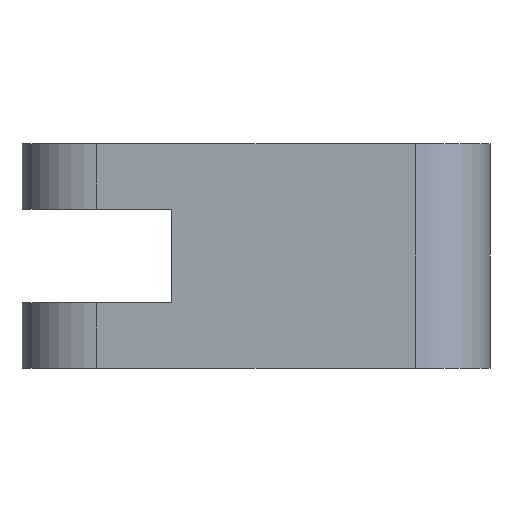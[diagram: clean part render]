
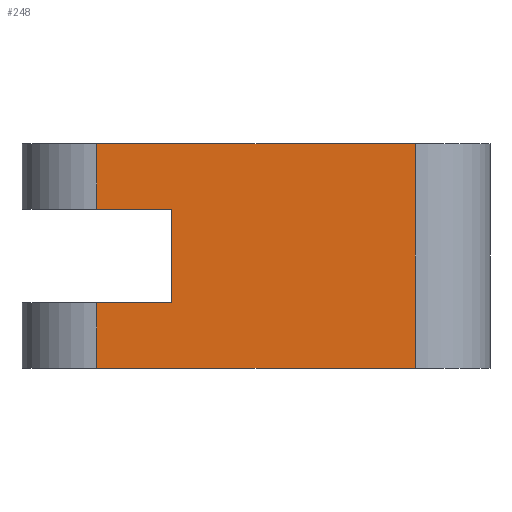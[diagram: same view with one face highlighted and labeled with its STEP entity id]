
A CAD part, front view. The second image highlights one B-rep face of the part: STEP entity #248.
In plain terms, the highlighted planar face has unit normal (0, -1, 0).
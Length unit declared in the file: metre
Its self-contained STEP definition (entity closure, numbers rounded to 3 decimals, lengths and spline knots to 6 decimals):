
#33=ORIENTED_EDGE('',*,*,#97,.T.);
#34=ORIENTED_EDGE('',*,*,#98,.T.);
#35=ORIENTED_EDGE('',*,*,#99,.T.);
#36=ORIENTED_EDGE('',*,*,#100,.F.);
#37=ORIENTED_EDGE('',*,*,#101,.T.);
#38=ORIENTED_EDGE('',*,*,#102,.F.);
#39=ORIENTED_EDGE('',*,*,#103,.F.);
#40=ORIENTED_EDGE('',*,*,#104,.T.);
#97=EDGE_CURVE('',#129,#130,#153,.T.);
#98=EDGE_CURVE('',#130,#131,#154,.T.);
#99=EDGE_CURVE('',#131,#132,#155,.T.);
#100=EDGE_CURVE('',#133,#132,#156,.T.);
#101=EDGE_CURVE('',#133,#134,#157,.T.);
#102=EDGE_CURVE('',#135,#134,#158,.T.);
#103=EDGE_CURVE('',#136,#135,#159,.T.);
#104=EDGE_CURVE('',#136,#129,#160,.T.);
#129=VERTEX_POINT('',#382);
#130=VERTEX_POINT('',#383);
#131=VERTEX_POINT('',#385);
#132=VERTEX_POINT('',#387);
#133=VERTEX_POINT('',#389);
#134=VERTEX_POINT('',#391);
#135=VERTEX_POINT('',#393);
#136=VERTEX_POINT('',#395);
#153=LINE('',#381,#171);
#154=LINE('',#384,#172);
#155=LINE('',#386,#173);
#156=LINE('',#388,#174);
#157=LINE('',#390,#175);
#158=LINE('',#392,#176);
#159=LINE('',#394,#177);
#160=LINE('',#396,#178);
#171=VECTOR('',#307,1.);
#172=VECTOR('',#308,1.);
#173=VECTOR('',#309,1.);
#174=VECTOR('',#310,1.);
#175=VECTOR('',#311,1.);
#176=VECTOR('',#312,1.);
#177=VECTOR('',#313,1.);
#178=VECTOR('',#314,1.);
#189=EDGE_LOOP('',(#33,#34,#35,#36,#37,#38,#39,#40));
#215=FACE_BOUND('',#189,.T.);
#241=PLANE('',#275);
#248=ADVANCED_FACE('',(#215),#241,.T.);
#275=AXIS2_PLACEMENT_3D('',#380,#305,#306);
#305=DIRECTION('',(0.,-1.,0.));
#306=DIRECTION('',(1.,0.,0.));
#307=DIRECTION('',(0.,0.,-1.));
#308=DIRECTION('',(1.,0.,0.));
#309=DIRECTION('',(0.,0.,-1.));
#310=DIRECTION('',(1.,0.,0.));
#311=DIRECTION('',(0.,0.,-1.));
#312=DIRECTION('',(-1.,0.,0.));
#313=DIRECTION('',(0.,0.,-1.));
#314=DIRECTION('',(-1.,0.,0.));
#380=CARTESIAN_POINT('',(-0.017,-0.008,0.024));
#381=CARTESIAN_POINT('',(-0.034,-0.008,0.024));
#382=CARTESIAN_POINT('',(-0.034,-0.008,0.024));
#383=CARTESIAN_POINT('',(-0.034,-0.008,0.017));
#384=CARTESIAN_POINT('',(-0.017,-0.008,0.017));
#385=CARTESIAN_POINT('',(-0.026,-0.008,0.017));
#386=CARTESIAN_POINT('',(-0.026,-0.008,0.024));
#387=CARTESIAN_POINT('',(-0.026,-0.008,0.007));
#388=CARTESIAN_POINT('',(-0.017,-0.008,0.007));
#389=CARTESIAN_POINT('',(-0.034,-0.008,0.007));
#390=CARTESIAN_POINT('',(-0.034,-0.008,0.024));
#391=CARTESIAN_POINT('',(-0.034,-0.008,0.));
#392=CARTESIAN_POINT('',(-0.017,-0.008,0.));
#393=CARTESIAN_POINT('',(0.,-0.008,0.));
#394=CARTESIAN_POINT('',(0.,-0.008,0.024));
#395=CARTESIAN_POINT('',(0.,-0.008,0.024));
#396=CARTESIAN_POINT('',(-0.017,-0.008,0.024));
